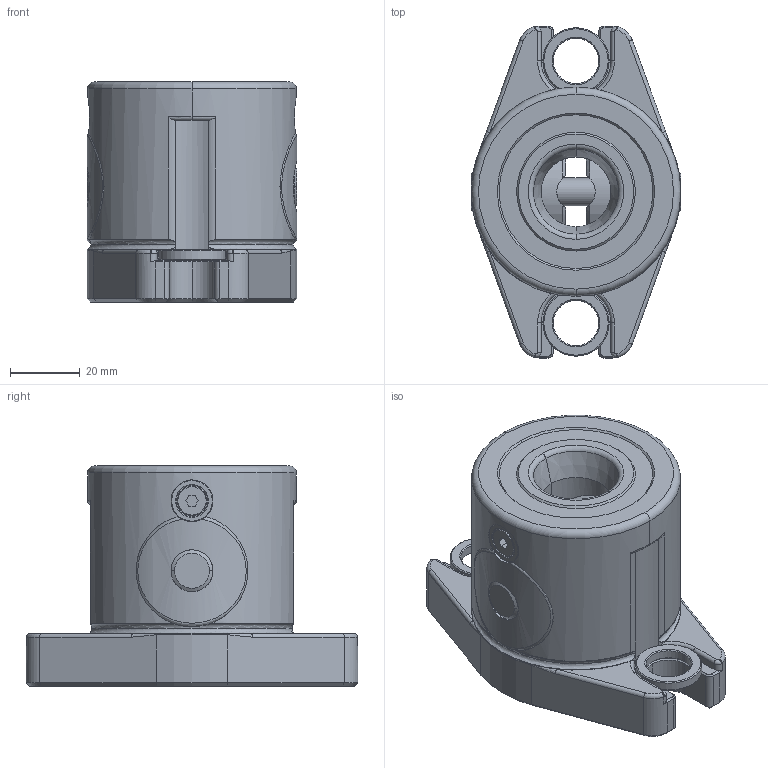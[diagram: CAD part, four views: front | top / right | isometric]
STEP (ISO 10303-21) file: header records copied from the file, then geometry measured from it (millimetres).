
FILE_DESCRIPTION (( 'STEP AP203' ), '1' );
FILE_NAME ('cp150-12063.STEP', '2021-10-25T23:52:22', ( '' ), ( '' ), 'SwSTEP 2.0', 'SolidWorks 2020', '' );
FILE_SCHEMA (( 'CONFIG_CONTROL_DESIGN' ));
Length unit declared in the file: millimetre
Products named in the file (7): cp150-12063_06; cp150-12063_03; cp150-12063_01; cp150-12063_04; cp150-12063; cp150-12063_05; cp150-12063_02
Assembly tree (6 placements, depth 2):
  cp150-12063
    cp150-12063_01
    cp150-12063_02
    cp150-12063_03
    cp150-12063_04
    cp150-12063_05
    cp150-12063_06
Bounding box: 60 x 95 x 63 mm (x, y, z)
Volume: 170391.5 mm3; surface area: 40095.7 mm2
Topology: 6 solids, 6 shells, 364 faces, 865 edges, 530 vertices
Faces by surface type: cylinder 116, plane 103, cone 92, torus 45, bspline 8
Entity records: 13949 total; most frequent: CARTESIAN_POINT 4786, DIRECTION 1840, ORIENTED_EDGE 1730, EDGE_CURVE 865, AXIS2_PLACEMENT_3D 742, VERTEX_POINT 530, EDGE_LOOP 395, CIRCLE 377
